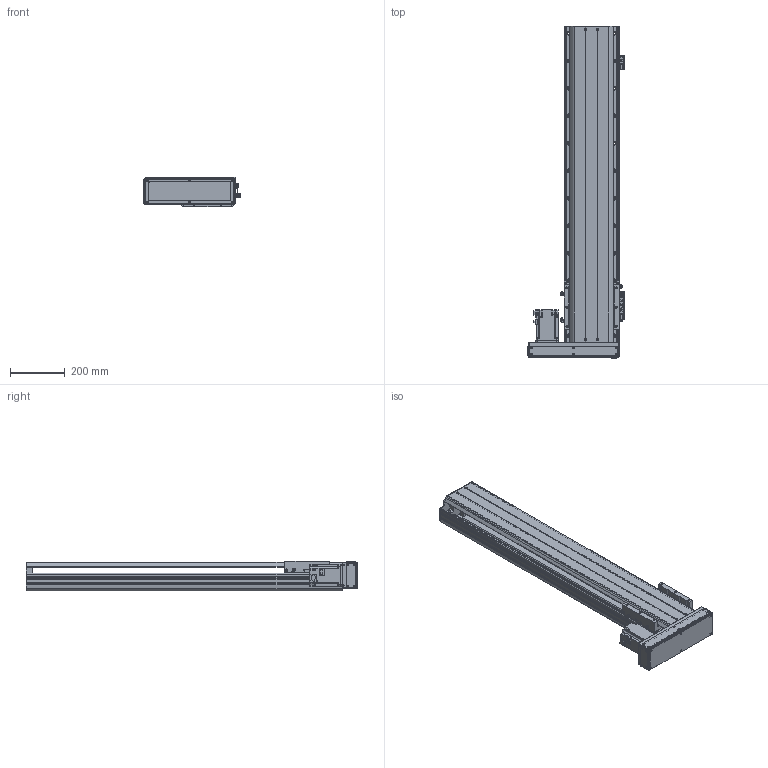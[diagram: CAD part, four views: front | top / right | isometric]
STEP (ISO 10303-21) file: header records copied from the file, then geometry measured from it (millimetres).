
FILE_DESCRIPTION(/* description */ ('MANUFACTURE'),/* implementation_level */ '2;1');
FILE_NAME(/* name */ '\\192.168.0.160\disk1\HAN SHIN Master\B-설계부문\C-표준\B-2024년\BC02-표준도면\+로봇 개선표준도면\표준 승인도 작업 폴더\3D\HG200\HG200병렬\좌병렬\HG200-L70-N-0900-R10.stp',/* time_stamp */ '2024-02-23T15:43:56+09:00',/* author */ ('User'),/* organization */ (''),/* preprocessor_version */ 'ST-DEVELOPER v18.1',/* originating_system */ 'Autodesk Inventor 2022',/* authorisation */ 'LIP');
FILE_SCHEMA (('AUTOMOTIVE_DESIGN { 1 0 10303 214 3 1 1 }'));
Products named in the file (22): HG200-L70-N-0500-R10; HR200 S BASE-개선; HR180 FRONT BLOCK; HR180 FRONT BLOCK_1; HR200 FRONT COVER; HR120 STOPPER; HR200 SENSOR DOG; HR200 S UPCOVER; HR200 TABLE (W,N); 750W MOTOR PLATE; HG200 750W LR MOTOR PLATE-사출; hg-kr73_; 화살표; hsr_ftht_A-M6F_grease_nipple_joint; NIPPLE CAP(신규); HR160 400W LR BELT COVER; HR200 ACRYL COVER -1; HR200 ACRYL COVER -1_1; HR200 ACRYL COVER -1_2; HG200 BOTTOM COVER; SENSOR BRK(EE-SX674A); EE_SX674A
Assembly tree (36 placements, depth 2):
  HG200-L70-N-0500-R10
    HR200 S BASE-개선
    HR180 FRONT BLOCK
    HR180 FRONT BLOCK_1
    HR200 FRONT COVER
    HR120 STOPPER  x2
    HR200 SENSOR DOG
    SENSOR BRK(EE-SX674A)  x3
    EE_SX674A  x3
    HR200 S UPCOVER
    HR200 TABLE (W,N)
    750W MOTOR PLATE
    HG200 750W LR MOTOR PLATE-사출
    hg-kr73_
    화살표  x2
    hsr_ftht_A-M6F_grease_nipple_joint  x5
    NIPPLE CAP(신규)  x5
    HR160 400W LR BELT COVER
    HR200 ACRYL COVER -1
    HR200 ACRYL COVER -1_1
    HR200 ACRYL COVER -1_2  x2
    HG200 BOTTOM COVER
Bounding box: 351 x 1208 x 109 mm (x, y, z)
Volume: 7988499.5 mm3; surface area: 2183524.2 mm2
Topology: 36 solids, 36 shells, 3927 faces, 11102 edges, 7324 vertices
Faces by surface type: plane 2698, cylinder 894, cone 241, sphere 44, torus 30, bspline 20
Full cylindrical faces by diameter (mm): 2.459 x50, 3 x10, 3.242 x18, 3.4 x20, 3.5 x6, 4 x6, 4.134 x10, 4.5 x14, 4.917 x54, 5 x20, 5.5 x5, 5.6 x5, 5.9 x4, 6 x11, 6.5 x10, 6.6 x28, 6.647 x34, 7 x4, 7.6 x4, 8 x4, 9 x36, 9.5 x1, 11 x28, 14 x24, 19 x1, 25 x1, 27 x1, 30 x1, 32 x1, 38 x1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
Entity records: 112576 total; most frequent: CARTESIAN_POINT 22113, ORIENTED_EDGE 18832, DIRECTION 17614, EDGE_CURVE 9416, LINE 7488, VECTOR 7488, VERTEX_POINT 6292, AXIS2_PLACEMENT_3D 5063
